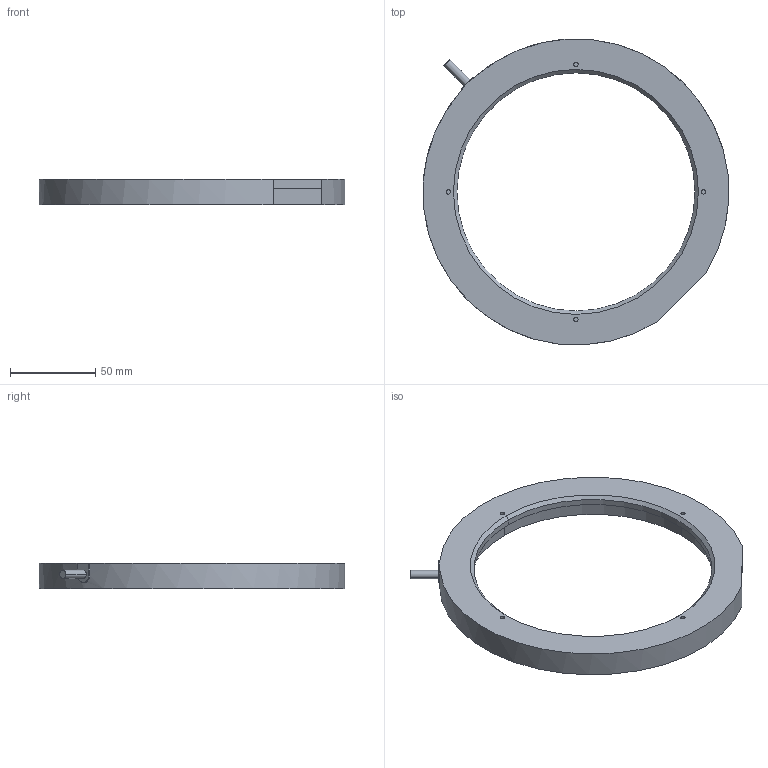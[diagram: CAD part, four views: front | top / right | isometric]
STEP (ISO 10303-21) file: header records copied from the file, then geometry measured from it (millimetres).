
FILE_DESCRIPTION((''),'2;1');
FILE_NAME('180-00','2024-03-29T18:05:53',('qiaoxuan5'),(''),'CREO PARAMETRIC BY PTC INC, 2020044','CREO PARAMETRIC BY PTC INC, 2020044','');
FILE_SCHEMA(('CONFIG_CONTROL_DESIGN'));
Length unit declared in the file: millimetre
Products named in the file (1): 180-00
Bounding box: 179.76 x 179.76 x 15 mm (x, y, z)
Volume: 134280.4 mm3; surface area: 35271.9 mm2
Topology: 1 solids, 7 shells, 292 faces, 658 edges, 390 vertices
Faces by surface type: plane 170, cylinder 81, cone 26, torus 13, sphere 2
Entity records: 8161 total; most frequent: CARTESIAN_POINT 1588, DIRECTION 1384, ORIENTED_EDGE 1312, EDGE_CURVE 656, AXIS2_PLACEMENT_3D 487, VECTOR 410, LINE 410, VERTEX_POINT 390
